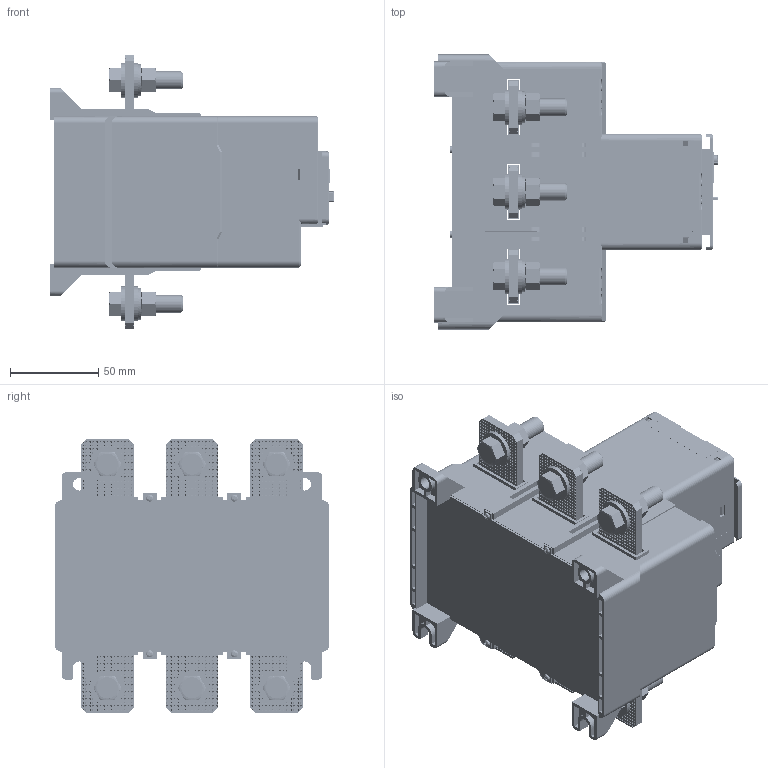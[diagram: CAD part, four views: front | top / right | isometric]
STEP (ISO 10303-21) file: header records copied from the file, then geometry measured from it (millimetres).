
FILE_DESCRIPTION((''),'2;1');
FILE_NAME('2ZTD-331-049_ASM','2017-07-17T',('KYCAD023'),(''),'PRO/ENGINEER BY PARAMETRIC TECHNOLOGY CORPORATION, 2009460','PRO/ENGINEER BY PARAMETRIC TECHNOLOGY CORPORATION, 2009460','');
FILE_SCHEMA(('CONFIG_CONTROL_DESIGN'));
Products named in the file (31): 8ZTD-005-553; 8ZTD-024-440; 8ZTD-256-010; 8ZTD-256-011; 8ZTD-441-034; 8ZTD-557-175; 8ZTD-321-047; 8ZTD-599-126; 8ZTD-732-187; 8ZTD-510-061-1; 8ZTD-510-061-2; 5ZTD-520-409_ASM; 8ZTD-600-320; 8ZTD-146-020; 5ZTD-648-065_ASM; 8ZTD-253-148; 5ZTD-494-037_ASM; 8ZTD-304-055; LT1; 8ZTD-315-337; 8ZT-868-011; NRE8-25_ASM; 5ZTD-510-176; 8ZTD-005-113; M2-2X8; GBT5781-M10; GBT848-10; GBT93-10; GBT6170-10; 8ZTD-315-1032; 2ZTD-331-049_ASM
Assembly tree (94 placements, depth 6):
  2ZTD-331-049_ASM
    8ZTD-005-553
    NRE8-25_ASM
      8ZTD-024-440
      8ZTD-256-010
      8ZTD-256-011
      8ZTD-441-034
      8ZTD-557-175  x4
      8ZTD-321-047
      5ZTD-494-037_ASM
        8ZTD-599-126
        5ZTD-648-065_ASM  x3
          5ZTD-520-409_ASM
            8ZTD-732-187
            8ZTD-510-061-1  x2
            8ZTD-510-061-2
          8ZTD-600-320
          8ZTD-146-020
        8ZTD-253-148
      8ZTD-304-055
      LT1  x4
      8ZTD-315-337
      8ZT-868-011
    5ZTD-510-176  x3
    8ZTD-005-113
    M2-2X8  x4
    GBT5781-M10  x6
    GBT848-10  x12
    GBT93-10  x6
    GBT6170-10  x6
    8ZTD-315-1032
Bounding box: 161 x 156 x 155 mm (x, y, z)
Volume: 445514.8 mm3; surface area: 458333.8 mm2
Topology: 220 solids, 228 shells, 20881 faces, 52833 edges, 34955 vertices
Faces by surface type: plane 19371, cylinder 1034, extrusion 235, torus 101, cone 68, bspline 50, sphere 22
Entity records: 312363 total; most frequent: CARTESIAN_POINT 60649, ORIENTED_EDGE 53376, DIRECTION 47479, EDGE_CURVE 26692, VECTOR 24645, LINE 24410, VERTEX_POINT 17658, AXIS2_PLACEMENT_3D 11417
